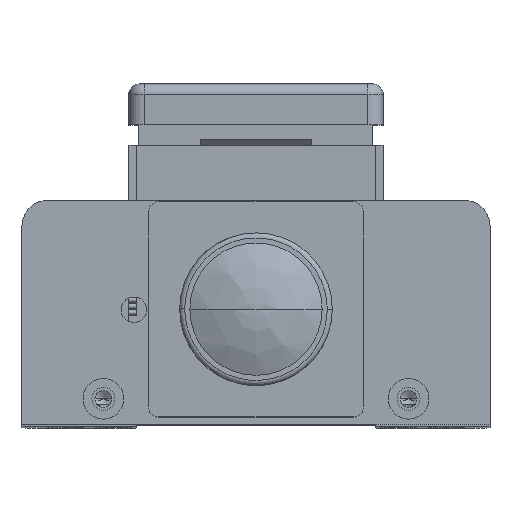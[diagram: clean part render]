
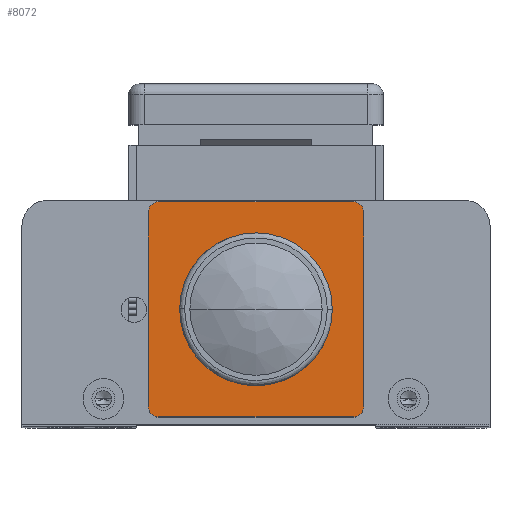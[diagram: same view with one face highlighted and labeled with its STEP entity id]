
A CAD part, top view. The second image highlights one B-rep face of the part: STEP entity #8072.
In plain terms, the highlighted planar face has unit normal (0, 0, 1) as drawn and (-1, 0, 0) by its records, which use the part's own axes.
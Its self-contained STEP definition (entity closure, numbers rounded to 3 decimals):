
#7820 = VERTEX_POINT ( 'NONE', #15560 ) ;
#7854 = VERTEX_POINT ( 'NONE', #15619 ) ;
#7855 = EDGE_CURVE ( 'NONE', #7871, #7854, #15612, .T. ) ;
#7871 = VERTEX_POINT ( 'NONE', #15648 ) ;
#7886 = VERTEX_POINT ( 'NONE', #15678 ) ;
#7888 = EDGE_CURVE ( 'NONE', #7820, #7886, #15674, .T. ) ;
#7897 = VERTEX_POINT ( 'NONE', #15720 ) ;
#7902 = VERTEX_POINT ( 'NONE', #15707 ) ;
#7946 = VERTEX_POINT ( 'NONE', #15818 ) ;
#7954 = VERTEX_POINT ( 'NONE', #15796 ) ;
#7976 = EDGE_CURVE ( 'NONE', #7897, #7902, #14354, .T. ) ;
#7990 = ORIENTED_EDGE ( 'NONE', *, *, #8036, .F. ) ;
#8028 = EDGE_CURVE ( 'NONE', #31921, #8031, #15930, .T. ) ;
#8031 = VERTEX_POINT ( 'NONE', #15931 ) ;
#8036 = EDGE_CURVE ( 'NONE', #7954, #7946, #15919, .T. ) ;
#8052 = EDGE_CURVE ( 'NONE', #7897, #7854, #15950, .T. ) ;
#8053 = ORIENTED_EDGE ( 'NONE', *, *, #8074, .T. ) ;
#8054 = ORIENTED_EDGE ( 'NONE', *, *, #7976, .F. ) ;
#8055 = ORIENTED_EDGE ( 'NONE', *, *, #8076, .T. ) ;
#8057 = ORIENTED_EDGE ( 'NONE', *, *, #8058, .F. ) ;
#8058 = EDGE_CURVE ( 'NONE', #7886, #7820, #16005, .T. ) ;
#8063 = ORIENTED_EDGE ( 'NONE', *, *, #8052, .T. ) ;
#8064 = EDGE_LOOP ( 'NONE', ( #8057, #8066 ) ) ;
#8066 = ORIENTED_EDGE ( 'NONE', *, *, #7888, .F. ) ;
#8069 = EDGE_LOOP ( 'NONE', ( #8075, #8071, #8070, #8053, #7990, #8055, #8054, #8063 ) ) ;
#8070 = ORIENTED_EDGE ( 'NONE', *, *, #8028, .F. ) ;
#8071 = ORIENTED_EDGE ( 'NONE', *, *, #8073, .T. ) ;
#8072 = ADVANCED_FACE ( 'NONE', ( #15992, #15953 ), #15993, .T. ) ;
#8073 = EDGE_CURVE ( 'NONE', #7871, #8031, #16043, .T. ) ;
#8074 = EDGE_CURVE ( 'NONE', #31921, #7946, #15991, .T. ) ;
#8075 = ORIENTED_EDGE ( 'NONE', *, *, #7855, .F. ) ;
#8076 = EDGE_CURVE ( 'NONE', #7954, #7902, #16038, .T. ) ;
#14353 = CARTESIAN_POINT ( 'NONE',  ( -24., 21.15, 21.15 ) ) ;
#14354 = LINE ( 'NONE', #14353, #14827 ) ;
#14827 = VECTOR ( 'NONE', #14836, 1000. ) ;
#14836 = DIRECTION ( 'NONE',  ( 0., 0., 1. ) ) ;
#15560 = CARTESIAN_POINT ( 'NONE',  ( -24., 0., 2.5 ) ) ;
#15609 = DIRECTION ( 'NONE',  ( 0., 1., 0. ) ) ;
#15610 = VECTOR ( 'NONE', #15609, 1000. ) ;
#15611 = CARTESIAN_POINT ( 'NONE',  ( -24., -21.15, -21.15 ) ) ;
#15612 = LINE ( 'NONE', #15611, #15610 ) ;
#15619 = CARTESIAN_POINT ( 'NONE',  ( -24., 19.15, -21.15 ) ) ;
#15648 = CARTESIAN_POINT ( 'NONE',  ( -24., -19.15, -21.15 ) ) ;
#15669 = DIRECTION ( 'NONE',  ( 0., 0., 1. ) ) ;
#15670 = DIRECTION ( 'NONE',  ( -1., 0., 0. ) ) ;
#15671 = CARTESIAN_POINT ( 'NONE',  ( -24., 0., 0. ) ) ;
#15672 = AXIS2_PLACEMENT_3D ( 'NONE', #15671, #15670, #15669 ) ;
#15674 = CIRCLE ( 'NONE', #15672, 2.5 ) ;
#15678 = CARTESIAN_POINT ( 'NONE',  ( -24., 0., -2.5 ) ) ;
#15707 = CARTESIAN_POINT ( 'NONE',  ( -24., 21.15, 19.15 ) ) ;
#15720 = CARTESIAN_POINT ( 'NONE',  ( -24., 21.15, -19.15 ) ) ;
#15796 = CARTESIAN_POINT ( 'NONE',  ( -24., 19.15, 21.15 ) ) ;
#15818 = CARTESIAN_POINT ( 'NONE',  ( -24., -19.15, 21.15 ) ) ;
#15916 = DIRECTION ( 'NONE',  ( 0., -1., 0. ) ) ;
#15917 = VECTOR ( 'NONE', #15916, 1000. ) ;
#15918 = CARTESIAN_POINT ( 'NONE',  ( -24., -21.15, 21.15 ) ) ;
#15919 = LINE ( 'NONE', #15918, #15917 ) ;
#15923 = DIRECTION ( 'NONE',  ( 0., 0., -1. ) ) ;
#15924 = VECTOR ( 'NONE', #15923, 1000. ) ;
#15929 = CARTESIAN_POINT ( 'NONE',  ( -24., -21.15, 21.15 ) ) ;
#15930 = LINE ( 'NONE', #15929, #15924 ) ;
#15931 = CARTESIAN_POINT ( 'NONE',  ( -24., -21.15, -19.15 ) ) ;
#15950 = CIRCLE ( 'NONE', #15954, 2. ) ;
#15953 = FACE_BOUND ( 'NONE', #8064, .T. ) ;
#15954 = AXIS2_PLACEMENT_3D ( 'NONE', #15961, #16014, #16013 ) ;
#15961 = CARTESIAN_POINT ( 'NONE',  ( -24., 19.15, -19.15 ) ) ;
#15984 = CARTESIAN_POINT ( 'NONE',  ( -24., -19.15, 19.15 ) ) ;
#15986 = DIRECTION ( 'NONE',  ( 0., 0., 1. ) ) ;
#15987 = DIRECTION ( 'NONE',  ( -1., 0., 0. ) ) ;
#15988 = CARTESIAN_POINT ( 'NONE',  ( -24., 19.15, 19.15 ) ) ;
#15991 = CIRCLE ( 'NONE', #16036, 2. ) ;
#15992 = FACE_OUTER_BOUND ( 'NONE', #8069, .T. ) ;
#15993 = PLANE ( 'NONE',  #16007 ) ;
#16000 = CARTESIAN_POINT ( 'NONE',  ( -24., 21.15, -21.15 ) ) ;
#16001 = DIRECTION ( 'NONE',  ( 0., 0., 1. ) ) ;
#16002 = DIRECTION ( 'NONE',  ( -1., 0., 0. ) ) ;
#16003 = CARTESIAN_POINT ( 'NONE',  ( -24., 0., 0. ) ) ;
#16004 = AXIS2_PLACEMENT_3D ( 'NONE', #16003, #16002, #16001 ) ;
#16005 = CIRCLE ( 'NONE', #16004, 2.5 ) ;
#16007 = AXIS2_PLACEMENT_3D ( 'NONE', #16000, #15987, #15986 ) ;
#16013 = DIRECTION ( 'NONE',  ( 0., 0., 1. ) ) ;
#16014 = DIRECTION ( 'NONE',  ( -1., 0., 0. ) ) ;
#16027 = DIRECTION ( 'NONE',  ( 0., 0., 1. ) ) ;
#16028 = DIRECTION ( 'NONE',  ( -1., 0., 0. ) ) ;
#16029 = AXIS2_PLACEMENT_3D ( 'NONE', #15988, #16028, #16027 ) ;
#16034 = DIRECTION ( 'NONE',  ( 0., 0., 1. ) ) ;
#16035 = DIRECTION ( 'NONE',  ( -1., 0., 0. ) ) ;
#16036 = AXIS2_PLACEMENT_3D ( 'NONE', #15984, #16035, #16034 ) ;
#16038 = CIRCLE ( 'NONE', #16029, 2. ) ;
#16039 = DIRECTION ( 'NONE',  ( 0., 0., 1. ) ) ;
#16040 = DIRECTION ( 'NONE',  ( -1., 0., 0. ) ) ;
#16041 = CARTESIAN_POINT ( 'NONE',  ( -24., -19.15, -19.15 ) ) ;
#16042 = AXIS2_PLACEMENT_3D ( 'NONE', #16041, #16040, #16039 ) ;
#16043 = CIRCLE ( 'NONE', #16042, 2. ) ;
#20229 = CARTESIAN_POINT ( 'NONE',  ( -24., -21.15, 19.15 ) ) ;
#31921 = VERTEX_POINT ( 'NONE', #20229 ) ;
